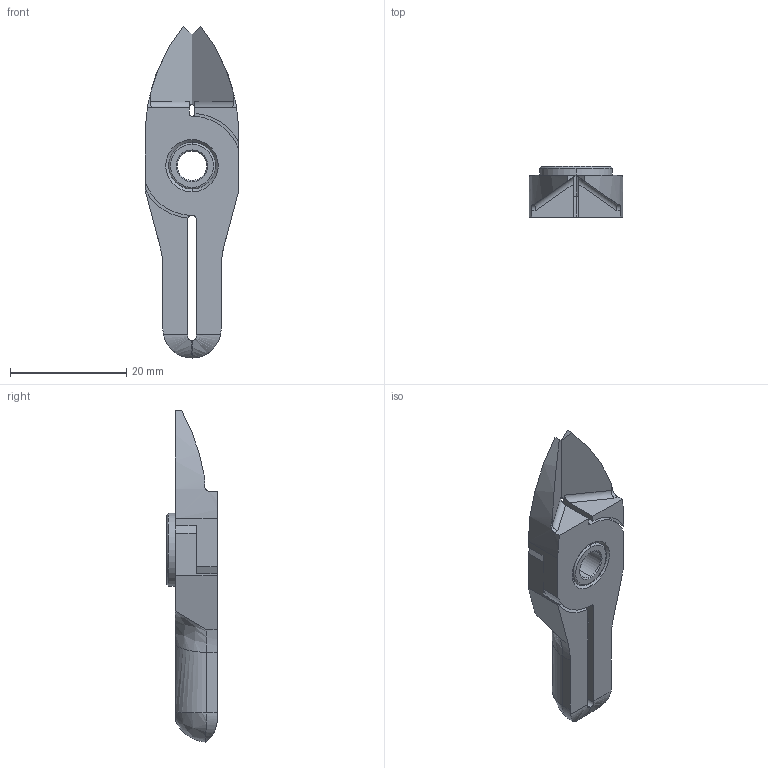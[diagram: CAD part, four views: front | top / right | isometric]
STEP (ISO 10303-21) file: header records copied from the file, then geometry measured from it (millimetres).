
FILE_DESCRIPTION (( 'STEP AP214' ), '1' );
FILE_NAME ('NY10AJB.STEP', '2019-11-28T03:16:12', ( '微软用户' ), ( '微软中国' ), 'SwSTEP 2.0', 'SolidWorks 2016', '' );
FILE_SCHEMA (( 'AUTOMOTIVE_DESIGN' ));
Length unit declared in the file: millimetre
Products named in the file (4): BR2; BR1; BS; NY10AJB
Assembly tree (3 placements, depth 2):
  NY10AJB
    BS
    BR1
    BR2
Bounding box: 16 x 8.7 x 57 mm (x, y, z)
Volume: 3542.9 mm3; surface area: 3720.1 mm2
Topology: 3 solids, 3 shells, 115 faces, 296 edges, 188 vertices
Faces by surface type: plane 35, cylinder 32, cone 22, bspline 22, torus 4
Entity records: 3881 total; most frequent: CARTESIAN_POINT 1111, ORIENTED_EDGE 584, DIRECTION 510, EDGE_CURVE 292, VERTEX_POINT 188, AXIS2_PLACEMENT_3D 187, VECTOR 136, LINE 136
